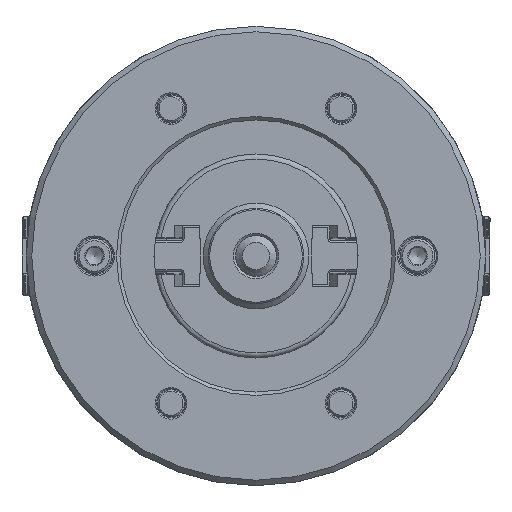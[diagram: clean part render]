
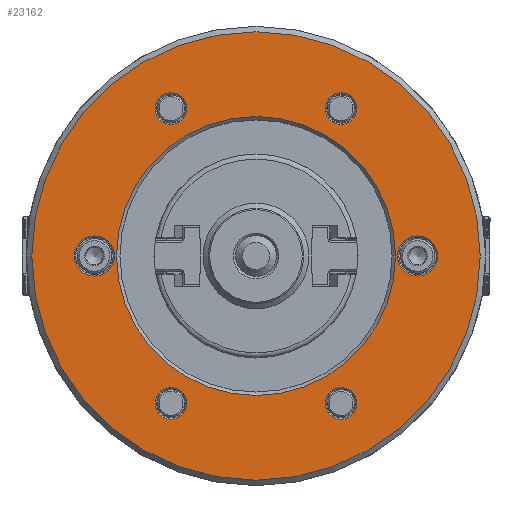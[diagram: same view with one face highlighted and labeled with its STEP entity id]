
A CAD part, left-side view. The second image highlights one B-rep face of the part: STEP entity #23162.
In plain terms, the highlighted planar face has unit normal (-1, 0, 0).
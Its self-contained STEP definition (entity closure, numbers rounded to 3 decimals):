
#753 = DIRECTION ( 'NONE',  ( 1., 0., 0. ) ) ;
#2123 = DIRECTION ( 'NONE',  ( 1., 0., 0. ) ) ;
#2664 = ORIENTED_EDGE ( 'NONE', *, *, #20138, .T. ) ;
#5404 = CARTESIAN_POINT ( 'NONE',  ( -55., 0., -65.9 ) ) ;
#5514 = EDGE_CURVE ( 'NONE', #54357, #54357, #51233, .T. ) ;
#5730 = EDGE_LOOP ( 'NONE', ( #10486 ) ) ;
#6329 = CARTESIAN_POINT ( 'NONE',  ( -55., -25., -43.301 ) ) ;
#6732 = DIRECTION ( 'NONE',  ( 0., 0., -1. ) ) ;
#6766 = EDGE_CURVE ( 'NONE', #16022, #16022, #59146, .T. ) ;
#7295 = CIRCLE ( 'NONE', #48883, 4.65 ) ;
#7817 = EDGE_LOOP ( 'NONE', ( #71664 ) ) ;
#8686 = AXIS2_PLACEMENT_3D ( 'NONE', #6329, #16399, #33875 ) ;
#9830 = EDGE_LOOP ( 'NONE', ( #28488 ) ) ;
#10486 = ORIENTED_EDGE ( 'NONE', *, *, #23078, .T. ) ;
#10874 = CARTESIAN_POINT ( 'NONE',  ( -55., 47.5, 0. ) ) ;
#11555 = CARTESIAN_POINT ( 'NONE',  ( -55., 25., -43.301 ) ) ;
#11947 = CARTESIAN_POINT ( 'NONE',  ( -55., 25., 43.301 ) ) ;
#12168 = DIRECTION ( 'NONE',  ( 0., 0., -1. ) ) ;
#12319 = ORIENTED_EDGE ( 'NONE', *, *, #6766, .T. ) ;
#13673 = EDGE_LOOP ( 'NONE', ( #12319 ) ) ;
#15270 = CARTESIAN_POINT ( 'NONE',  ( -55., 25., -47.951 ) ) ;
#15617 = DIRECTION ( 'NONE',  ( 0., 0., 1. ) ) ;
#16022 = VERTEX_POINT ( 'NONE', #54725 ) ;
#16399 = DIRECTION ( 'NONE',  ( 1., 0., 0. ) ) ;
#19169 = CIRCLE ( 'NONE', #63070, 5.9 ) ;
#19360 = FACE_BOUND ( 'NONE', #52510, .T. ) ;
#19869 = CIRCLE ( 'NONE', #62606, 5.9 ) ;
#20138 = EDGE_CURVE ( 'NONE', #22332, #22332, #55107, .T. ) ;
#20480 = AXIS2_PLACEMENT_3D ( 'NONE', #26926, #72362, #21373 ) ;
#21373 = DIRECTION ( 'NONE',  ( 0., 0., -1. ) ) ;
#21498 = ORIENTED_EDGE ( 'NONE', *, *, #5514, .T. ) ;
#21778 = EDGE_LOOP ( 'NONE', ( #32856 ) ) ;
#22332 = VERTEX_POINT ( 'NONE', #67388 ) ;
#22510 = CARTESIAN_POINT ( 'NONE',  ( -55., -25., 38.651 ) ) ;
#23078 = EDGE_CURVE ( 'NONE', #68470, #68470, #70503, .T. ) ;
#23162 = ADVANCED_FACE ( 'NONE', ( #52832, #58783, #40560, #40931, #42041, #63999, #63269, #19360 ), #68845, .F. ) ;
#24082 = CARTESIAN_POINT ( 'NONE',  ( -55., 0., 0. ) ) ;
#26569 = AXIS2_PLACEMENT_3D ( 'NONE', #24082, #2123, #63899 ) ;
#26620 = EDGE_CURVE ( 'NONE', #66096, #66096, #19869, .T. ) ;
#26884 = DIRECTION ( 'NONE',  ( 0., 0., 1. ) ) ;
#26926 = CARTESIAN_POINT ( 'NONE',  ( -55., 0., 0. ) ) ;
#28301 = DIRECTION ( 'NONE',  ( 0., 0., -1. ) ) ;
#28488 = ORIENTED_EDGE ( 'NONE', *, *, #43667, .F. ) ;
#29250 = CARTESIAN_POINT ( 'NONE',  ( -55., -25., 43.301 ) ) ;
#29954 = CIRCLE ( 'NONE', #20480, 65.9 ) ;
#32856 = ORIENTED_EDGE ( 'NONE', *, *, #48167, .T. ) ;
#33686 = VERTEX_POINT ( 'NONE', #5404 ) ;
#33875 = DIRECTION ( 'NONE',  ( 0., 0., -1. ) ) ;
#33917 = EDGE_CURVE ( 'NONE', #47486, #47486, #19169, .T. ) ;
#35023 = DIRECTION ( 'NONE',  ( 1., 0., 0. ) ) ;
#38898 = VERTEX_POINT ( 'NONE', #22510 ) ;
#40560 = FACE_BOUND ( 'NONE', #13673, .T. ) ;
#40931 = FACE_BOUND ( 'NONE', #68978, .T. ) ;
#41663 = CARTESIAN_POINT ( 'NONE',  ( -55., -65.9, 0. ) ) ;
#42041 = FACE_BOUND ( 'NONE', #5730, .T. ) ;
#42410 = DIRECTION ( 'NONE',  ( -1., 0., 0. ) ) ;
#42628 = CARTESIAN_POINT ( 'NONE',  ( -55., 47.5, 5.9 ) ) ;
#42929 = AXIS2_PLACEMENT_3D ( 'NONE', #11555, #50654, #28301 ) ;
#43667 = EDGE_CURVE ( 'NONE', #33686, #33686, #29954, .T. ) ;
#45531 = AXIS2_PLACEMENT_3D ( 'NONE', #41663, #753, #52458 ) ;
#45649 = DIRECTION ( 'NONE',  ( 1., 0., 0. ) ) ;
#47486 = VERTEX_POINT ( 'NONE', #48580 ) ;
#47780 = EDGE_LOOP ( 'NONE', ( #21498 ) ) ;
#48167 = EDGE_CURVE ( 'NONE', #38898, #38898, #7295, .T. ) ;
#48580 = CARTESIAN_POINT ( 'NONE',  ( -55., -47.5, 5.9 ) ) ;
#48883 = AXIS2_PLACEMENT_3D ( 'NONE', #29250, #45649, #12168 ) ;
#50654 = DIRECTION ( 'NONE',  ( 1., 0., 0. ) ) ;
#50741 = ORIENTED_EDGE ( 'NONE', *, *, #26620, .F. ) ;
#51233 = CIRCLE ( 'NONE', #42929, 4.65 ) ;
#52458 = DIRECTION ( 'NONE',  ( 0., 0., -1. ) ) ;
#52510 = EDGE_LOOP ( 'NONE', ( #2664 ) ) ;
#52832 = FACE_BOUND ( 'NONE', #7817, .T. ) ;
#54357 = VERTEX_POINT ( 'NONE', #15270 ) ;
#54725 = CARTESIAN_POINT ( 'NONE',  ( -55., 25., 38.651 ) ) ;
#55107 = CIRCLE ( 'NONE', #26569, 41. ) ;
#55188 = DIRECTION ( 'NONE',  ( -1., 0., 0. ) ) ;
#58783 = FACE_BOUND ( 'NONE', #47780, .T. ) ;
#59146 = CIRCLE ( 'NONE', #65111, 4.65 ) ;
#59378 = CARTESIAN_POINT ( 'NONE',  ( -55., -25., -47.951 ) ) ;
#62606 = AXIS2_PLACEMENT_3D ( 'NONE', #10874, #55188, #26884 ) ;
#63070 = AXIS2_PLACEMENT_3D ( 'NONE', #71467, #42410, #15617 ) ;
#63269 = FACE_OUTER_BOUND ( 'NONE', #9830, .T. ) ;
#63899 = DIRECTION ( 'NONE',  ( 0., 0., -1. ) ) ;
#63999 = FACE_BOUND ( 'NONE', #21778, .T. ) ;
#65111 = AXIS2_PLACEMENT_3D ( 'NONE', #11947, #35023, #6732 ) ;
#66096 = VERTEX_POINT ( 'NONE', #42628 ) ;
#67388 = CARTESIAN_POINT ( 'NONE',  ( -55., 0., -41. ) ) ;
#68470 = VERTEX_POINT ( 'NONE', #59378 ) ;
#68845 = PLANE ( 'NONE',  #45531 ) ;
#68978 = EDGE_LOOP ( 'NONE', ( #50741 ) ) ;
#70503 = CIRCLE ( 'NONE', #8686, 4.65 ) ;
#71467 = CARTESIAN_POINT ( 'NONE',  ( -55., -47.5, 0. ) ) ;
#71664 = ORIENTED_EDGE ( 'NONE', *, *, #33917, .F. ) ;
#72362 = DIRECTION ( 'NONE',  ( 1., 0., 0. ) ) ;
